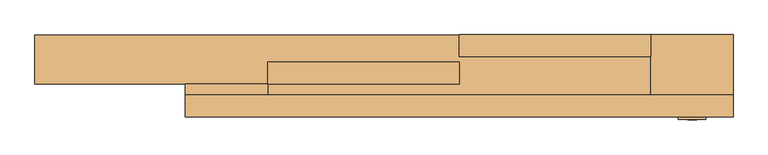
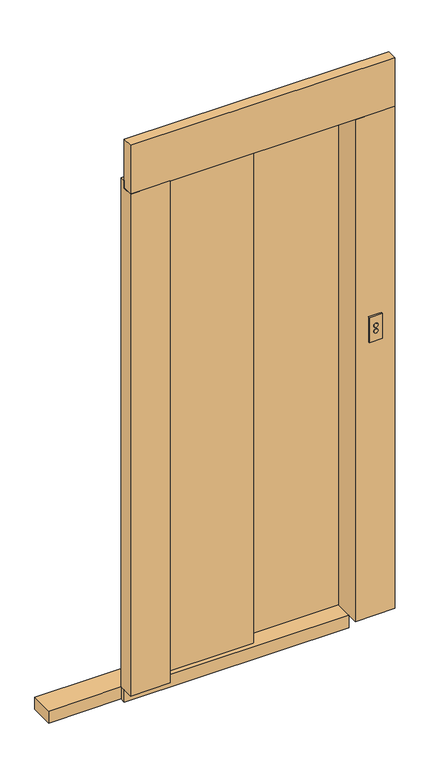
"""IFC4 building model written with IfcOpenShell, lengths in millimetres: door geometry, Porta do elevador : Porta do elevador."""

from ifc_helpers import new_model, si_unit, point, frame, frame_2d, origin, origin_with_axes, place, context, project, spatial, polyline, circle_curve, trimmed, segment, composite_curve, outline, extrude, source, transform, mapped, element, save


def door_ffffc2e2(model_context):
    return source(origin(), model_context, "Body", "SweptSolid", [
        extrude(outline(composite_curve([segment(trimmed(circle_curve(frame_2d((1138.68, 550.0)), 8.23), [point((1138.68, 541.77))], [point((1138.68, 558.23))], False, "CARTESIAN"), True, "CONTINUOUS"), segment(trimmed(circle_curve(frame_2d((1138.68, 550.0)), 8.23), [point((1138.68, 558.23))], [point((1138.68, 541.77))], False, "CARTESIAN"), True, "CONTINUOUS")], self_intersect=False)), frame((0.0, 29.0, 0.0), z_axis=(0.0, 1.0, 0.0), x_axis=(0.0, 0.0, 1.0)), (0.0, 0.0, 1.0), 6.0),
        extrude(outline(composite_curve([segment(trimmed(circle_curve(frame_2d((1161.32, 550.0)), 8.23), [point((1161.32, 541.77))], [point((1161.32, 558.23))], False, "CARTESIAN"), True, "CONTINUOUS"), segment(trimmed(circle_curve(frame_2d((1161.32, 550.0)), 8.23), [point((1161.32, 558.23))], [point((1161.32, 541.77))], False, "CARTESIAN"), True, "CONTINUOUS")], self_intersect=False)), frame((0.0, 29.0, 0.0), z_axis=(0.0, 1.0, 0.0), x_axis=(0.0, 0.0, 1.0)), (0.0, 0.0, 1.0), 6.0),
        extrude(outline(polyline([(575.0, 30.0), (525.0, 30.0), (525.0, 35.0), (575.0, 35.0), (575.0, 30.0)])), frame((0.0, 0.0, 1100.0), z_axis=(0.0, 0.0, 1.0), x_axis=(1.0, 0.0, 0.0)), (0.0, 0.0, 1.0), 100.0),
        extrude(outline(polyline([(-225.0, 135.0), (125.0, 135.0), (125.0, 95.0), (-225.0, 95.0), (-225.0, 135.0)])), origin_with_axes(), (0.0, 0.0, 1.0), 2035.0),
        extrude(outline(polyline([(475.0, 145.0), (125.0, 145.0), (125.0, 185.0), (475.0, 185.0), (475.0, 145.0)])), origin_with_axes(), (0.0, 0.0, 1.0), 2035.0),
        extrude(outline(polyline([(185.0, 0.0), (35.0, 0.0), (35.0, 2005.0), (75.0, 2005.0), (75.0, 2035.0), (185.0, 2035.0), (185.0, 0.0)])), frame((475.0, 0.0, 0.0), z_axis=(1.0, 0.0, 0.0), x_axis=(0.0, 1.0, 0.0)), (0.0, 0.0, 1.0), 150.0),
        extrude(outline(polyline([(95.0, 0.0), (35.0, 0.0), (35.0, 2005.0), (75.0, 2005.0), (75.0, 2035.0), (95.0, 2035.0), (95.0, 0.0)])), frame((-375.0, 0.0, 0.0), z_axis=(1.0, 0.0, 0.0), x_axis=(0.0, 1.0, 0.0)), (0.0, 0.0, 1.0), 150.0),
        extrude(outline(polyline([(625.0, 35.0), (-375.0, 35.0), (-375.0, 75.0), (625.0, 75.0), (625.0, 35.0)])), frame((0.0, 0.0, 2005.0), z_axis=(0.0, 0.0, 1.0), x_axis=(1.0, 0.0, 0.0)), (0.0, 0.0, 1.0), 195.0),
        extrude(outline(polyline([(-650.0, 95.0), (-650.0, 185.0), (475.0, 185.0), (475.0, 75.0), (-375.0, 75.0), (-375.0, 95.0), (-650.0, 95.0)])), frame((0.0, 0.0, -48.0), z_axis=(0.0, 0.0, 1.0), x_axis=(1.0, 0.0, 0.0)), (0.0, 0.0, 1.0), 48.0),
    ])


if __name__ == "__main__":
    model = new_model("IFC4")
    model_context = context("Model", 3, world=origin())
    ifc_project = project(units=[si_unit("LENGTHUNIT", "METRE", prefix="MILLI")], contexts=[model_context])
    site = spatial("IfcSite", under=ifc_project)
    building = spatial("IfcBuilding", under=site)
    placement = place(None, origin())
    door_shape = door_ffffc2e2(model_context)
    element("IfcDoor", 1, ObjectType="Porta do elevador : Porta do elevador", at=placement, inside=building, context=model_context, shape_type="MappedRepresentation", body=[
        mapped(door_shape, transform((0.0, 0.0, 0.0), x_axis=(1.0, 0.0, 0.0), y_axis=(0.0, 1.0, 0.0), z_axis=(0.0, 0.0, 1.0))),
    ])
    save(model, "model.ifc")
